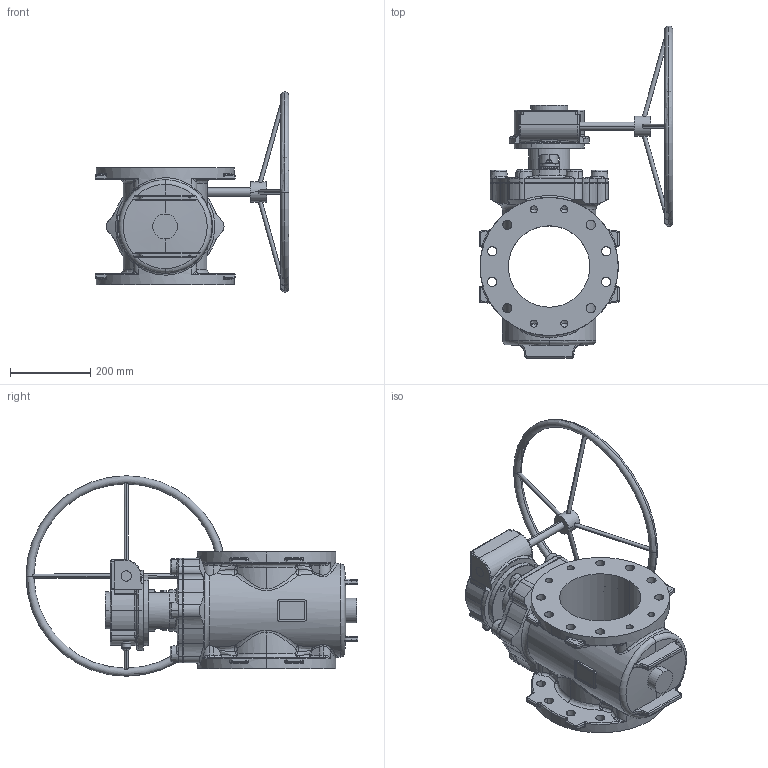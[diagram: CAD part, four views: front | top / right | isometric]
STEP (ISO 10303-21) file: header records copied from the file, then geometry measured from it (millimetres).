
FILE_DESCRIPTION (( 'STEP AP203' ), '1' );
FILE_NAME ('O_764_01_DN200_1XXXXXX020_REV01.step', '2021-02-01T09:29:59', ( '' ), ( '' ), 'SwSTEP 2.0', 'SolidWorks 2019', '' );
FILE_SCHEMA (( 'CONFIG_CONTROL_DESIGN' ));
Length unit declared in the file: millimetre
Products named in the file (1): O_764_01_DN200_1XXXXXX020_REV01
Bounding box: 483.03 x 828.4 x 500 mm (x, y, z)
Surface area: 1172094.7 mm2 (no closed solid volume)
Topology: 0 solids, 3 shells, 1015 faces, 2509 edges, 1469 vertices
Faces by surface type: cylinder 355, plane 209, bspline 177, torus 151, cone 73, sphere 50
Entity records: 47431 total; most frequent: CARTESIAN_POINT 24819, ORIENTED_EDGE 4882, DIRECTION 4627, EDGE_CURVE 2441, AXIS2_PLACEMENT_3D 1955, VERTEX_POINT 1462, CIRCLE 1116, EDGE_LOOP 1099
